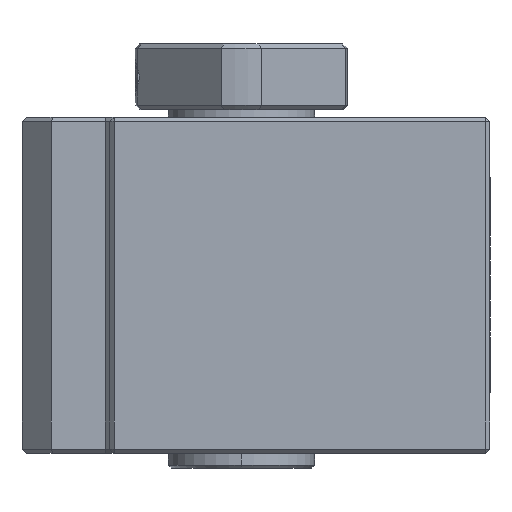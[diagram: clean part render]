
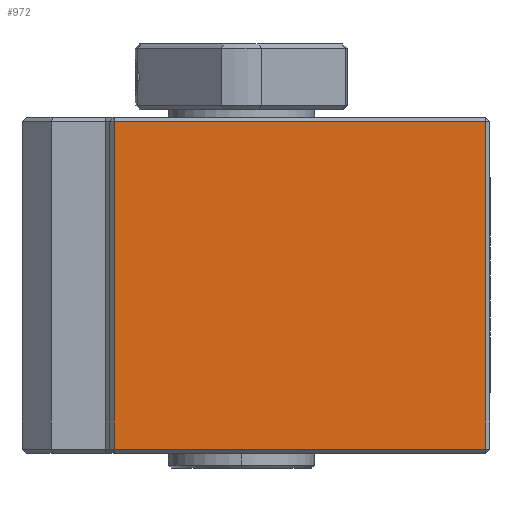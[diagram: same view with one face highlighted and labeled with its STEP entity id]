
A CAD part, left-side view. The second image highlights one B-rep face of the part: STEP entity #972.
In plain terms, the highlighted planar face has unit normal (-1, 0, 0).
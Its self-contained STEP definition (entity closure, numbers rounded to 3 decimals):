
#112 = EDGE_CURVE ( 'NONE', #668, #669, #3759, .T. ) ;
#113 = EDGE_CURVE ( 'NONE', #667, #668, #3762, .T. ) ;
#114 = EDGE_CURVE ( 'NONE', #669, #670, #3765, .T. ) ;
#115 = EDGE_CURVE ( 'NONE', #670, #667, #3768, .T. ) ;
#290 = ORIENTED_EDGE ( 'NONE', *, *, #113, .T. ) ;
#293 = ORIENTED_EDGE ( 'NONE', *, *, #114, .T. ) ;
#294 = ORIENTED_EDGE ( 'NONE', *, *, #112, .T. ) ;
#295 = ORIENTED_EDGE ( 'NONE', *, *, #115, .T. ) ;
#520 = EDGE_LOOP ( 'NONE', ( #290, #294, #293, #295 ) ) ;
#667 = VERTEX_POINT ( 'NONE', #4131 ) ;
#668 = VERTEX_POINT ( 'NONE', #4132 ) ;
#669 = VERTEX_POINT ( 'NONE', #4133 ) ;
#670 = VERTEX_POINT ( 'NONE', #4134 ) ;
#972 = ADVANCED_FACE ( 'NONE', ( #2991 ), #4299, .F. ) ;
#2827 = VECTOR ( 'NONE', #3761, 1000. ) ;
#2828 = VECTOR ( 'NONE', #3764, 1000. ) ;
#2829 = VECTOR ( 'NONE', #3767, 1000. ) ;
#2830 = VECTOR ( 'NONE', #3770, 1000. ) ;
#2989 = AXIS2_PLACEMENT_3D ( 'NONE', #4300, #4301, #4302 ) ;
#2991 = FACE_OUTER_BOUND ( 'NONE', #520, .T. ) ;
#3759 = LINE ( 'NONE', #3760, #2827 ) ;
#3760 = CARTESIAN_POINT ( 'NONE',  ( -26., 9., -11.2 ) ) ;
#3761 = DIRECTION ( 'NONE',  ( 0., -1., 0. ) ) ;
#3762 = LINE ( 'NONE', #3763, #2828 ) ;
#3763 = CARTESIAN_POINT ( 'NONE',  ( -26., 8.7, 11.5 ) ) ;
#3764 = DIRECTION ( 'NONE',  ( 0., 0., -1. ) ) ;
#3765 = LINE ( 'NONE', #3766, #2829 ) ;
#3766 = CARTESIAN_POINT ( 'NONE',  ( -26., -16.7, 11.5 ) ) ;
#3767 = DIRECTION ( 'NONE',  ( 0., 0., 1. ) ) ;
#3768 = LINE ( 'NONE', #3769, #2830 ) ;
#3769 = CARTESIAN_POINT ( 'NONE',  ( -26., 9., 11.2 ) ) ;
#3770 = DIRECTION ( 'NONE',  ( 0., 1., 0. ) ) ;
#4131 = CARTESIAN_POINT ( 'NONE',  ( -26., 8.7, 11.2 ) ) ;
#4132 = CARTESIAN_POINT ( 'NONE',  ( -26., 8.7, -11.2 ) ) ;
#4133 = CARTESIAN_POINT ( 'NONE',  ( -26., -16.7, -11.2 ) ) ;
#4134 = CARTESIAN_POINT ( 'NONE',  ( -26., -16.7, 11.2 ) ) ;
#4299 = PLANE ( 'NONE',  #2989 ) ;
#4300 = CARTESIAN_POINT ( 'NONE',  ( -26., 9., 11.5 ) ) ;
#4301 = DIRECTION ( 'NONE',  ( 1., 0., 0. ) ) ;
#4302 = DIRECTION ( 'NONE',  ( 0., 1., 0. ) ) ;
